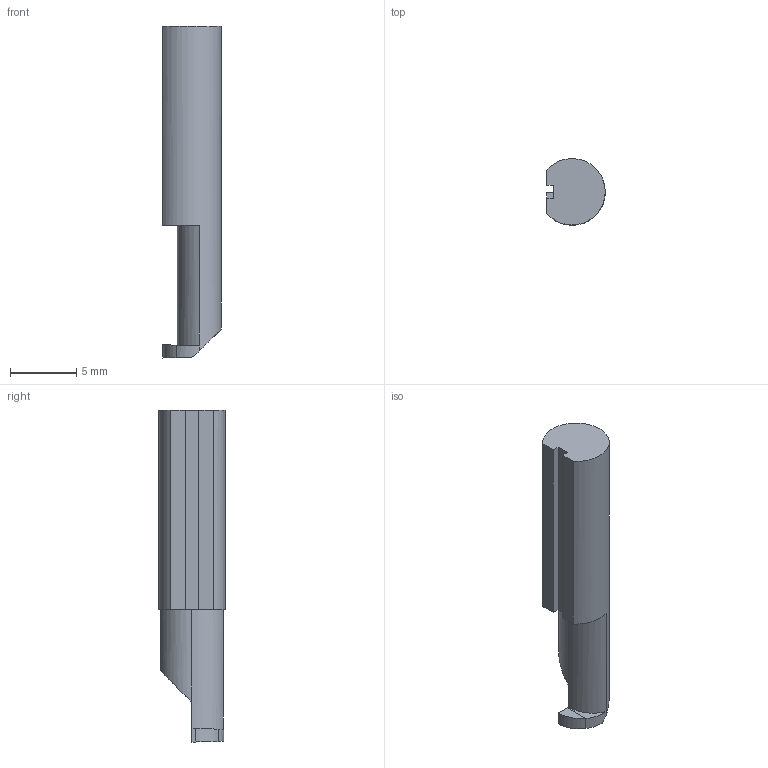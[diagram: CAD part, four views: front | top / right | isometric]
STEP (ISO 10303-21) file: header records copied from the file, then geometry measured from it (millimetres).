
FILE_DESCRIPTION(('CATIA V5 STEP Exchange'),'2;1');
FILE_NAME('I:\isr\design\admin8\users\weaam_s\6402341.L.stp','2012-01-10T08:28:24+00:00',('none'),('none'),'CATIA Version 5 Release 19 SP 7 (IN-10)','CATIA V5 STEP AP214','none');
FILE_SCHEMA(('AUTOMOTIVE_DESIGN { 1 0 10303 214 1 1 1 1 }'));
Length unit declared in the file: millimetre
Products named in the file (1): 60894054_0 Assembly PICCO R 005.0100-10
Bounding box: 4.4 x 5 x 25 mm (x, y, z)
Volume: 356.3 mm3; surface area: 394.9 mm2
Topology: 2 solids, 2 shells, 25 faces, 65 edges, 44 vertices
Faces by surface type: plane 18, cylinder 7
Entity records: 814 total; most frequent: CARTESIAN_POINT 192, ORIENTED_EDGE 130, DIRECTION 102, EDGE_CURVE 65, VERTEX_POINT 44, VECTOR 43, LINE 43, AXIS2_PLACEMENT_3D 36
